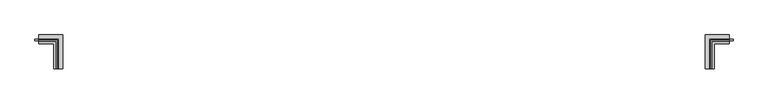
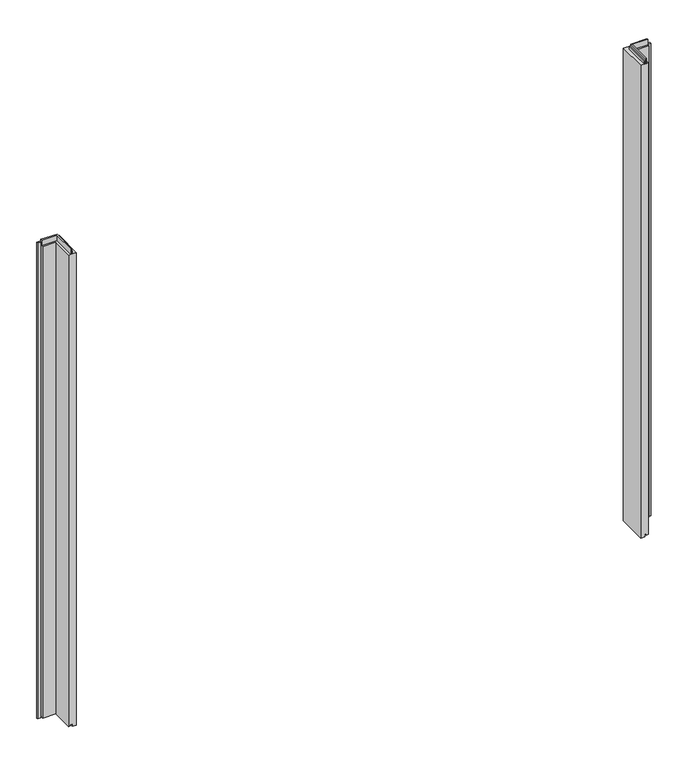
"""IFC4 building model written with IfcOpenShell, lengths in millimetres: plate geometry, Trimo_Qbiss Screen_Wall Opening Trims-HORIZONTAL : HR - B."""

from ifc_helpers import new_model, si_unit, frame, origin, origin_with_axes, place, context, project, spatial, polyline, outline, extrude, faceted_brep, source, transform, mapped, element, save


def plate_ff55eab8(model_context):
    return source(origin(), model_context, "Body", "SolidModel", [
        extrude(outline(polyline([(-1960.0, 71.0), (-1960.0, 76.0), (-1850.0, 76.0), (-1850.0, -92.0), (-1855.0, -92.0), (-1855.0, 71.0), (-1960.0, 71.0)])), frame((0.0, 0.0, 3229.8), z_axis=(0.0, 0.0, 1.0), x_axis=(1.0, 0.0, 0.0)), (0.0, 0.0, 1.0), 21.0),
        extrude(outline(polyline([(1854.0, -92.0), (1849.0, -92.0), (1849.0, 76.0), (1960.0, 76.0), (1960.0, 71.0), (1854.0, 71.0), (1854.0, -92.0)])), frame((0.0, 0.0, 3229.8), z_axis=(0.0, 0.0, 1.0), x_axis=(1.0, 0.0, 0.0)), (0.0, 0.0, 1.0), 21.0),
        faceted_brep([(-1960.0, 71.0, 3228.8), (-1960.0, 100.0, 3228.8), (-1960.0, 100.0, 0.0), (-1960.0, 72.0, 0.0), (-1960.0, 72.0, 15.5), (-1960.0, 62.0, 15.5), (-1960.0, 62.0, 7.0), (-1960.0, 50.0, 7.0), (-1960.0, 50.0, 3228.8), (-1960.0, 63.0, 3228.8), (-1960.0, 63.0, 3266.3), (-1960.0, 71.0, 3266.3), (-1854.0, 71.0, 3228.8), (-1854.0, -92.0, 3228.8), (-1825.0, -92.0, 3228.8), (-1825.0, 100.0, 3228.8), (-1825.0, 100.0, 0.0), (-1825.0, -92.0, 0.0), (-1853.0, -92.0, 0.0), (-1853.0, 72.0, 0.0), (-1853.0, 72.0, 15.5), (-1853.0, -92.0, 15.5), (-1863.0, -92.0, 15.5), (-1863.0, 62.0, 15.5), (-1863.0, 62.0, 7.0), (-1863.0, -92.0, 7.0), (-1875.0, -92.0, 7.0), (-1875.0, 50.0, 7.0), (-1875.0, 50.0, 3228.8), (-1875.0, -92.0, 3228.8), (-1862.0, -92.0, 3228.8), (-1862.0, 63.0, 3228.8), (-1862.0, 63.0, 3266.3), (-1862.0, -92.0, 3266.3), (-1854.0, -92.0, 3266.3), (-1854.0, 71.0, 3266.3)], [[[0, 1, 2, 3, 4, 5, 6, 7, 8, 9, 10, 11]], [[1, 0, 12, 13, 14, 15]], [[2, 1, 15, 16]], [[3, 2, 16, 17, 18, 19]], [[4, 3, 19, 20]], [[5, 4, 20, 21, 22, 23]], [[6, 5, 23, 24]], [[7, 6, 24, 25, 26, 27]], [[8, 7, 27, 28]], [[9, 8, 28, 29, 30, 31]], [[10, 9, 31, 32]], [[11, 10, 32, 33, 34, 35]], [[0, 11, 35, 12]], [[13, 34, 33, 30, 29, 26, 25, 22, 21, 18, 17, 14]], [[16, 15, 14, 17]], [[20, 19, 18, 21]], [[24, 23, 22, 25]], [[28, 27, 26, 29]], [[32, 31, 30, 33]], [[12, 35, 34, 13]]]),
        faceted_brep([(1854.0, -92.0, 3228.8), (1825.0, -92.0, 3228.8), (1825.0, -92.0, 0.0), (1853.0, -92.0, 0.0), (1853.0, -92.0, 15.5), (1863.0, -92.0, 15.5), (1863.0, -92.0, 7.0), (1875.0, -92.0, 7.0), (1875.0, -92.0, 3228.8), (1862.0, -92.0, 3228.8), (1862.0, -92.0, 3266.3), (1854.0, -92.0, 3266.3), (1825.0, 100.0, 0.0), (1825.0, 100.0, 3228.8), (1960.0, 100.0, 3228.8), (1960.0, 100.0, 0.0), (1853.0, 72.0, 15.5), (1853.0, 72.0, 0.0), (1960.0, 72.0, 0.0), (1960.0, 72.0, 15.5), (1863.0, 62.0, 7.0), (1863.0, 62.0, 15.5), (1960.0, 62.0, 15.5), (1960.0, 62.0, 7.0), (1875.0, 50.0, 3228.8), (1875.0, 50.0, 7.0), (1960.0, 50.0, 7.0), (1960.0, 50.0, 3228.8), (1862.0, 63.0, 3266.3), (1862.0, 63.0, 3228.8), (1960.0, 63.0, 3228.8), (1960.0, 63.0, 3266.3), (1854.0, 71.0, 3228.8), (1854.0, 71.0, 3266.3), (1960.0, 71.0, 3266.3), (1960.0, 71.0, 3228.8)], [[[0, 1, 2, 3, 4, 5, 6, 7, 8, 9, 10, 11]], [[12, 13, 14, 15]], [[16, 17, 18, 19]], [[20, 21, 22, 23]], [[24, 25, 26, 27]], [[28, 29, 30, 31]], [[32, 33, 34, 35]], [[35, 34, 31, 30, 27, 26, 23, 22, 19, 18, 15, 14]], [[1, 0, 32, 35, 14, 13]], [[2, 1, 13, 12]], [[3, 2, 12, 15, 18, 17]], [[4, 3, 17, 16]], [[5, 4, 16, 19, 22, 21]], [[6, 5, 21, 20]], [[7, 6, 20, 23, 26, 25]], [[8, 7, 25, 24]], [[9, 8, 24, 27, 30, 29]], [[10, 9, 29, 28]], [[11, 10, 28, 31, 34, 33]], [[0, 11, 33, 32]]]),
        extrude(outline(polyline([(1963.0, 76.5978162), (1982.0, 76.5978162), (1982.0, 67.8978162), (1963.0, 67.8978162), (1963.0, 76.5978162)])), origin_with_axes(), (0.0, 0.0, 1.0), 3228.8),
        extrude(outline(polyline([(-1963.0, 76.5978162), (-1963.0, 67.8978162), (-1982.0, 67.8978162), (-1982.0, 76.5978162), (-1963.0, 76.5978162)])), origin_with_axes(), (0.0, 0.0, 1.0), 3251.8),
    ])


if __name__ == "__main__":
    model = new_model("IFC4")
    model_context = context("Model", 3, world=origin())
    ifc_project = project(units=[si_unit("LENGTHUNIT", "METRE", prefix="MILLI")], contexts=[model_context])
    site = spatial("IfcSite", under=ifc_project)
    building = spatial("IfcBuilding", under=site)
    placement = place(None, origin())
    plate_shape = plate_ff55eab8(model_context)
    element("IfcPlate", 1, ObjectType="Trimo_Qbiss Screen_Wall Opening Trims-HORIZONTAL : HR - B", at=placement, inside=building, context=model_context, shape_type="MappedRepresentation", body=[
        mapped(plate_shape, transform((0.0, 0.0, 0.0), x_axis=(1.0, 0.0, 0.0), y_axis=(0.0, 1.0, 0.0), z_axis=(0.0, 0.0, 1.0))),
    ])
    save(model, "model.ifc")
